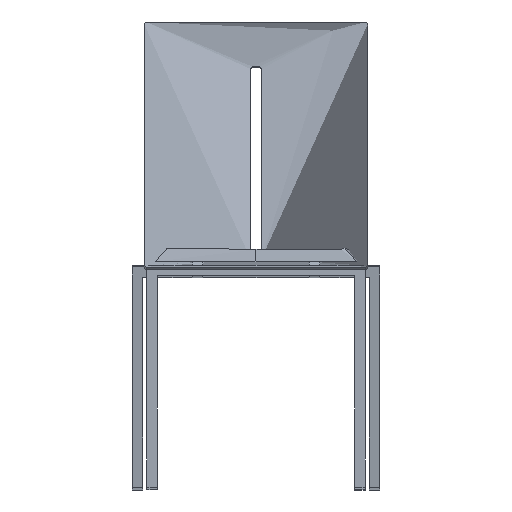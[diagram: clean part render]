
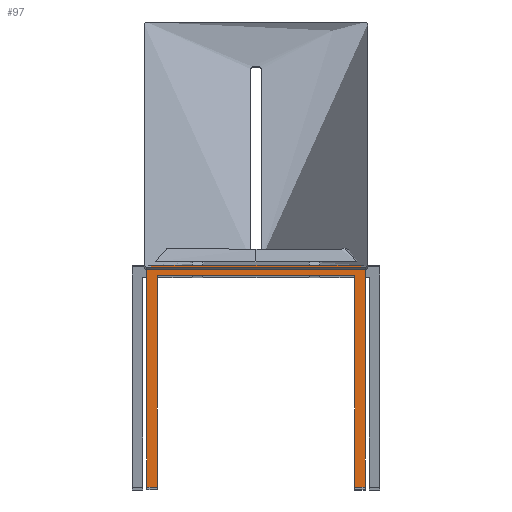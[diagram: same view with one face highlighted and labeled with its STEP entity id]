
A CAD part, front view. The second image highlights one B-rep face of the part: STEP entity #97.
In plain terms, the highlighted planar face has unit normal (0, -1, 0).
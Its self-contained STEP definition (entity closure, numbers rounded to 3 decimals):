
#97=ADVANCED_FACE('',(#184),#1401,.T.);
#184=FACE_OUTER_BOUND('',#271,.T.);
#271=EDGE_LOOP('',(#397,#398,#399,#400,#401,#402,#403,#404,#405,#406,#407,
#408));
#397=ORIENTED_EDGE('',*,*,#831,.F.);
#398=ORIENTED_EDGE('',*,*,#832,.F.);
#399=ORIENTED_EDGE('',*,*,#833,.T.);
#400=ORIENTED_EDGE('',*,*,#810,.F.);
#401=ORIENTED_EDGE('',*,*,#834,.T.);
#402=ORIENTED_EDGE('',*,*,#825,.F.);
#403=ORIENTED_EDGE('',*,*,#826,.F.);
#404=ORIENTED_EDGE('',*,*,#827,.T.);
#405=ORIENTED_EDGE('',*,*,#828,.F.);
#406=ORIENTED_EDGE('',*,*,#829,.F.);
#407=ORIENTED_EDGE('',*,*,#830,.T.);
#408=ORIENTED_EDGE('',*,*,#806,.F.);
#806=EDGE_CURVE('',#1234,#1236,#1041,.T.);
#810=EDGE_CURVE('',#1240,#1238,#1045,.T.);
#825=EDGE_CURVE('',#1255,#1254,#1060,.T.);
#826=EDGE_CURVE('',#1256,#1255,#1061,.T.);
#827=EDGE_CURVE('',#1256,#1257,#1062,.T.);
#828=EDGE_CURVE('',#1258,#1257,#1063,.T.);
#829=EDGE_CURVE('',#1259,#1258,#1064,.T.);
#830=EDGE_CURVE('',#1259,#1236,#1065,.T.);
#831=EDGE_CURVE('',#1260,#1234,#1066,.T.);
#832=EDGE_CURVE('',#1261,#1260,#1067,.T.);
#833=EDGE_CURVE('',#1261,#1238,#1068,.T.);
#834=EDGE_CURVE('',#1240,#1254,#1069,.T.);
#1041=B_SPLINE_CURVE_WITH_KNOTS('',1,(#1800,#1801),.UNSPECIFIED.,.F.,.F.,
(2,2),(-27.856,8.358),.UNSPECIFIED.);
#1045=B_SPLINE_CURVE_WITH_KNOTS('',1,(#1808,#1809),.UNSPECIFIED.,.F.,.F.,
(2,2),(-33.928,2.286),.UNSPECIFIED.);
#1060=B_SPLINE_CURVE_WITH_KNOTS('',1,(#1838,#1839),.UNSPECIFIED.,.F.,.F.,
(2,2),(0.,1.),.UNSPECIFIED.);
#1061=B_SPLINE_CURVE_WITH_KNOTS('',1,(#1840,#1841),.UNSPECIFIED.,.F.,.F.,
(2,2),(0.,1.),.UNSPECIFIED.);
#1062=B_SPLINE_CURVE_WITH_KNOTS('',1,(#1842,#1843),.UNSPECIFIED.,.F.,.F.,
(2,2),(0.,1.),.UNSPECIFIED.);
#1063=B_SPLINE_CURVE_WITH_KNOTS('',1,(#1844,#1845),.UNSPECIFIED.,.F.,.F.,
(2,2),(0.,1.),.UNSPECIFIED.);
#1064=B_SPLINE_CURVE_WITH_KNOTS('',1,(#1846,#1847),.UNSPECIFIED.,.F.,.F.,
(2,2),(0.,1.),.UNSPECIFIED.);
#1065=B_SPLINE_CURVE_WITH_KNOTS('',1,(#1848,#1849),.UNSPECIFIED.,.F.,.F.,
(2,2),(0.,0.971),.UNSPECIFIED.);
#1066=B_SPLINE_CURVE_WITH_KNOTS('',1,(#1850,#1851),.UNSPECIFIED.,.F.,.F.,
(2,2),(0.,20.),.UNSPECIFIED.);
#1067=B_SPLINE_CURVE_WITH_KNOTS('',1,(#1852,#1853),.UNSPECIFIED.,.F.,.F.,
(2,2),(-271.565,0.),.UNSPECIFIED.);
#1068=B_SPLINE_CURVE_WITH_KNOTS('',1,(#1854,#1855),.UNSPECIFIED.,.F.,.F.,
(2,2),(0.,20.),.UNSPECIFIED.);
#1069=B_SPLINE_CURVE_WITH_KNOTS('',1,(#1856,#1857),.UNSPECIFIED.,.F.,.F.,
(2,2),(0.029,1.),.UNSPECIFIED.);
#1234=VERTEX_POINT('',#1700);
#1236=VERTEX_POINT('',#1702);
#1238=VERTEX_POINT('',#1704);
#1240=VERTEX_POINT('',#1706);
#1254=VERTEX_POINT('',#1720);
#1255=VERTEX_POINT('',#1721);
#1256=VERTEX_POINT('',#1722);
#1257=VERTEX_POINT('',#1723);
#1258=VERTEX_POINT('',#1724);
#1259=VERTEX_POINT('',#1725);
#1260=VERTEX_POINT('',#1726);
#1261=VERTEX_POINT('',#1727);
#1401=PLANE('',#1540);
#1540=AXIS2_PLACEMENT_3D('',#1671,#1596,$);
#1596=DIRECTION('',(0.,-1.,0.));
#1671=CARTESIAN_POINT('',(205.,-219.808,5.408));
#1700=CARTESIAN_POINT('',(120.,-219.808,422.261));
#1702=CARTESIAN_POINT('',(205.,-219.808,422.261));
#1704=CARTESIAN_POINT('',(-120.,-219.808,422.261));
#1706=CARTESIAN_POINT('',(-205.,-219.808,422.261));
#1720=CARTESIAN_POINT('',(-205.,-219.808,5.408));
#1721=CARTESIAN_POINT('',(-185.,-219.808,5.408));
#1722=CARTESIAN_POINT('',(-185.,-219.808,402.261));
#1723=CARTESIAN_POINT('',(185.,-219.808,402.261));
#1724=CARTESIAN_POINT('',(185.,-219.808,5.408));
#1725=CARTESIAN_POINT('',(205.,-219.808,5.408));
#1726=CARTESIAN_POINT('',(100.,-219.808,422.261));
#1727=CARTESIAN_POINT('',(-100.,-219.808,422.261));
#1800=CARTESIAN_POINT('',(120.,-219.808,422.261));
#1801=CARTESIAN_POINT('',(205.,-219.808,422.261));
#1808=CARTESIAN_POINT('',(-205.,-219.808,422.261));
#1809=CARTESIAN_POINT('',(-120.,-219.808,422.261));
#1838=CARTESIAN_POINT('',(-185.,-219.808,5.408));
#1839=CARTESIAN_POINT('',(-205.,-219.808,5.408));
#1840=CARTESIAN_POINT('',(-185.,-219.808,402.261));
#1841=CARTESIAN_POINT('',(-185.,-219.808,5.408));
#1842=CARTESIAN_POINT('',(-185.,-219.808,402.261));
#1843=CARTESIAN_POINT('',(185.,-219.808,402.261));
#1844=CARTESIAN_POINT('',(185.,-219.808,5.408));
#1845=CARTESIAN_POINT('',(185.,-219.808,402.261));
#1846=CARTESIAN_POINT('',(205.,-219.808,5.408));
#1847=CARTESIAN_POINT('',(185.,-219.808,5.408));
#1848=CARTESIAN_POINT('',(205.,-219.808,5.408));
#1849=CARTESIAN_POINT('',(205.,-219.808,422.261));
#1850=CARTESIAN_POINT('',(100.,-219.808,422.261));
#1851=CARTESIAN_POINT('',(120.,-219.808,422.261));
#1852=CARTESIAN_POINT('',(-100.,-219.808,422.261));
#1853=CARTESIAN_POINT('',(100.,-219.808,422.261));
#1854=CARTESIAN_POINT('',(-100.,-219.808,422.261));
#1855=CARTESIAN_POINT('',(-120.,-219.808,422.261));
#1856=CARTESIAN_POINT('',(-205.,-219.808,422.261));
#1857=CARTESIAN_POINT('',(-205.,-219.808,5.408));
